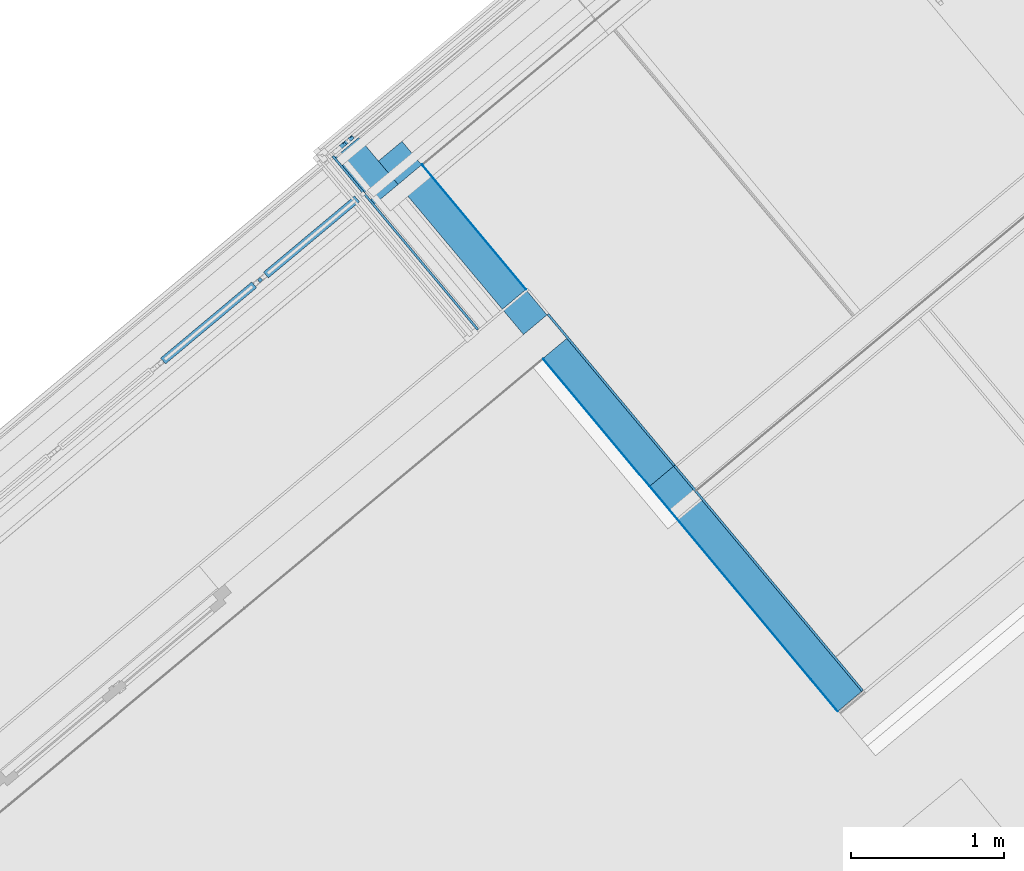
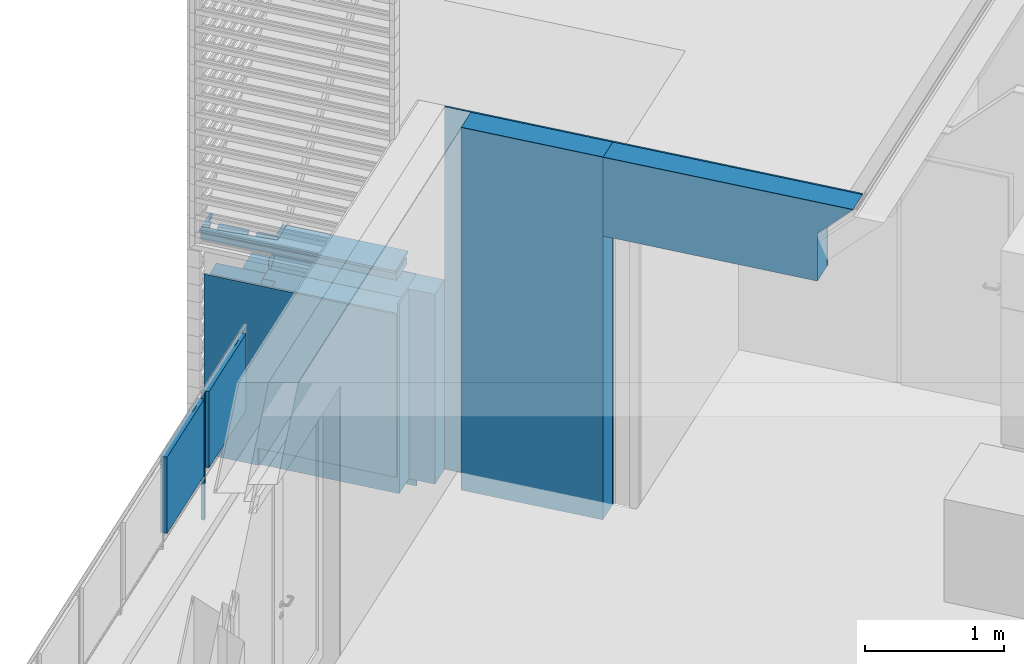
# One storey, part 20 of 50: 15 building element parts, 5 elements without a shape of their own.
"""IFC4 building model written with IfcOpenShell, lengths in metres."""

from ifc_helpers import new_model, entity, si_unit, converted_unit, derived_unit, direction, frame, origin_with_axes, place, context, subcontext, project, spatial, polygons, material, type_object, element, aggregate, save


model = new_model("IFC4")

# Units and contexts
model_context = context("Model", 3, precision=1e-05, world=origin_with_axes(), true_north=direction((0.0, 1.0)))
body_context = subcontext(model_context, "Body", "Model", "MODEL_VIEW")
ifc_project = project(units=[si_unit("LENGTHUNIT", "METRE"), si_unit("AREAUNIT", "SQUARE_METRE"), si_unit("VOLUMEUNIT", "CUBIC_METRE"), converted_unit("PLANEANGLEUNIT", "DEGREE", entity("IfcPlaneAngleMeasure", 0.0174532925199), si_unit("PLANEANGLEUNIT", "RADIAN"), dimensions=[0, 0, 0, 0, 0, 0, 0]), converted_unit("TIMEUNIT", "Year", entity("IfcTimeMeasure", 31556926.0), si_unit("TIMEUNIT", "SECOND"), dimensions=[0, 0, 1, 0, 0, 0, 0]), si_unit("MASSUNIT", "GRAM", prefix="KILO"), si_unit("THERMODYNAMICTEMPERATUREUNIT", "DEGREE_CELSIUS"), si_unit("LUMINOUSINTENSITYUNIT", "LUMEN"), si_unit("ENERGYUNIT", "JOULE", prefix="MEGA"), derived_unit("THERMALCONDUCTANCEUNIT", [(si_unit("POWERUNIT", "WATT"), 1), (si_unit("LENGTHUNIT", "METRE"), -1), (si_unit("THERMODYNAMICTEMPERATUREUNIT", "KELVIN"), -1)]), derived_unit("SPECIFICHEATCAPACITYUNIT", [(si_unit("ENERGYUNIT", "JOULE"), 1), (si_unit("MASSUNIT", "GRAM", prefix="KILO"), -1), (si_unit("THERMODYNAMICTEMPERATUREUNIT", "KELVIN"), -1)]), derived_unit("MASSDENSITYUNIT", [(si_unit("MASSUNIT", "GRAM", prefix="KILO"), 1), (si_unit("VOLUMEUNIT", "CUBIC_METRE"), -1)])], contexts=[model_context])

# Site, building, storey, space
site_placement = place(None, frame((-0.00153261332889, -0.00661245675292, 0.0), z_axis=(0.0, 0.0, 1.0), x_axis=(1.0, 0.0, 0.0)))
site = spatial("IfcSite", under=ifc_project, at=site_placement, Name="Gelände", CompositionType="ELEMENT")
building_placement = place(site_placement, origin_with_axes())
building = spatial("IfcBuilding", under=site, at=building_placement, Name="Gebäude", CompositionType="ELEMENT")
storey_placement = place(building_placement, frame((0.0, 0.0, 8.66), z_axis=(0.0, 0.0, 1.0), x_axis=(1.0, 0.0, 0.0)))
storey = spatial("IfcBuildingStorey", under=building, at=storey_placement, Name="DG2", CompositionType="ELEMENT", Elevation=8.66)
space_1_placement = place(storey_placement, frame((0.280300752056, 22.6307267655, 0.22), z_axis=(0.0, 0.0, 1.0), x_axis=(-0.641244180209, 0.767336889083, 0.0)))
space_1 = spatial("IfcSpace", under=storey, at=space_1_placement, CompositionType="ELEMENT", PredefinedType="NOTDEFINED")

# Wall, building element parts
wall_type_1 = type_object("IfcWallType", Name="AW DG 220", PredefinedType="NOTDEFINED")
wall_1_placement = place(space_1_placement, frame((1.50098786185, 3.42421823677, -0.22), z_axis=(0.0, 0.0, 1.0), x_axis=(-0.99999999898, 4.51729857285e-05, 0.0)))
wall_1 = element("IfcWall", 1, at=wall_1_placement, inside=space_1, type_object=wall_type_1, Name="Wand-003", PredefinedType="NOTDEFINED")
ifc_material_1 = material(Name="Zementputz")
building_element_part_1_placement = place(wall_1_placement, origin_with_axes())
building_element_part_1 = element("IfcBuildingElementPart", 2, at=building_element_part_1_placement, material=ifc_material_1, Name="Zementputz", PredefinedType="NOTDEFINED", context=body_context, shape_type="Tessellation", body=[
    polygons([(1.50106645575, 0.205, 3.18), (1.50106645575, 0.22, 3.18), (0.214999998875, 0.22, 3.18), (0.214999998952, 0.205, 3.18), (1.50106645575, 0.205, 0.0), (1.50106645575, 0.22, 0.0), (0.214999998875, 0.22, 0.0), (0.214999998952, 0.205, 0.0)], [[[1, 2, 3, 4]], [[1, 5, 6, 2]], [[2, 6, 7, 3]], [[4, 3, 7, 8]], [[5, 1, 4, 8]], [[6, 5, 8, 7]]], closed=True),
])
ifc_material_2 = material(Name="Stahlbeton Wand")
building_element_part_2_placement = place(wall_1_placement, origin_with_axes())
building_element_part_2 = element("IfcBuildingElementPart", 3, at=building_element_part_2_placement, material=ifc_material_2, Name="Stahlbeton Wand", PredefinedType="NOTDEFINED", context=body_context, shape_type="Tessellation", body=[
    polygons([(1.50106645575, 0.005, 3.18), (1.50106645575, 0.205, 3.18), (0.414999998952, 0.205, 3.18), (0.414999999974, 0.005, 3.18), (1.50106645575, 0.005, 0.0), (1.50106645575, 0.205, 0.0), (0.414999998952, 0.205, 0.0), (0.414999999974, 0.005, 0.0)], [[[1, 2, 3, 4]], [[1, 5, 6, 2]], [[2, 6, 7, 3]], [[4, 3, 7, 8]], [[5, 1, 4, 8]], [[6, 5, 8, 7]]], closed=True),
])
building_element_part_3_placement = place(wall_1_placement, origin_with_axes())
building_element_part_3 = element("IfcBuildingElementPart", 4, at=building_element_part_3_placement, material=ifc_material_1, Name="Zementputz", PredefinedType="NOTDEFINED", context=body_context, shape_type="Tessellation", body=[
    polygons([(1.50106645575, 0.0, 3.18), (1.50106645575, 0.005, 3.18), (0.419999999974, 0.005, 3.18), (0.42, 0.0, 3.18), (1.50106645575, 0.0, 0.0), (1.50106645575, 0.005, 0.0), (0.419999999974, 0.005, 0.0), (0.42, 0.0, 0.0)], [[[1, 2, 3, 4]], [[1, 5, 6, 2]], [[2, 6, 7, 3]], [[4, 3, 7, 8]], [[5, 1, 4, 8]], [[6, 5, 8, 7]]], closed=True),
])
aggregate(wall_1, [building_element_part_1, building_element_part_2, building_element_part_3])

wall_type_2 = type_object("IfcWallType", Name="AW EG 420", PredefinedType="NOTDEFINED")
wall_2_placement = place(space_1_placement, frame((2.97553500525, 3.63415164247, -0.42), z_axis=(0.0, 0.0, 1.0), x_axis=(-0.99999999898, 4.51678759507e-05, 0.0)))
wall_2 = element("IfcWall", 5, at=wall_2_placement, inside=space_1, type_object=wall_type_2, Name="Wand-002", PredefinedType="NOTDEFINED")
building_element_part_4_placement = place(wall_2_placement, origin_with_axes())
building_element_part_4 = element("IfcBuildingElementPart", 6, at=building_element_part_4_placement, material=ifc_material_1, Name="Zementputz", PredefinedType="NOTDEFINED", context=body_context, shape_type="Tessellation", body=[
    polygons([(0.415356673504, 0.42, 1.86399832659), (0.415356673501, 0.42, 1.86303786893), (1.47453765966, 0.42, 1.86303786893), (1.47453765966, 0.42, 0.2), (1.47453765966, 0.42, 0.0), (0.419999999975, 0.42, 0.0), (0.419999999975, 0.42, 0.2), (0.414999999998, 0.42, 0.2), (0.414999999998, 0.42, 1.86399832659), (0.415356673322, 0.415, 1.86399832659), (0.415356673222, 0.415000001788, 1.85953683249), (1.47453766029, 0.415000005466, 1.85953683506), (1.47453765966, 0.415000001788, 0.0), (0.419999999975, 0.415000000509, 0.0), (0.419999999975, 0.415000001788, 0.2), (0.414999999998, 0.415000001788, 0.2), (0.414999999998, 0.415, 1.86399832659)], [[[1, 2, 3, 4, 5, 6, 7, 8, 9]], [[2, 1, 10, 11]], [[12, 3, 2, 11]], [[3, 12, 13, 5, 4]], [[6, 5, 13, 14]], [[6, 14, 15, 7]], [[8, 7, 15, 16]], [[9, 8, 16, 17]], [[10, 1, 9, 17]], [[11, 10, 17, 16, 15, 14, 13, 12]]], closed=True),
])
building_element_part_5_placement = place(wall_2_placement, origin_with_axes())
building_element_part_5 = element("IfcBuildingElementPart", 7, at=building_element_part_5_placement, material=ifc_material_2, Name="Stahlbeton Wand", PredefinedType="NOTDEFINED", context=body_context, shape_type="Tessellation", body=[
    polygons([(0.415356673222, 0.415000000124, 1.85953683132), (1.47453766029, 0.415000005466, 1.85953683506), (1.47453766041, 0.415000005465, 1.86399832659), (1.68953765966, 0.415, 1.86399832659), (1.68953765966, 0.415000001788, 0.2), (0.419999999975, 0.414999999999, 0.2), (0.214999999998, 0.415000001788, 0.2), (0.215000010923, 0.415000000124, 1.7484529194), (0.415000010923, 0.414999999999, 1.74845291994), (0.415000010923, 0.415, 1.86399832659), (0.415356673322, 0.415, 1.86399832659), (0.415356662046, 0.215000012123, 1.71949533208), (1.47453764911, 0.214999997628, 1.71949532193), (1.47453765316, 0.214999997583, 1.86399832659), (1.68953765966, 0.215, 1.86399832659), (1.68953765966, 0.214999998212, 0.2), (1.47453765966, 0.214999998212, 0.2), (0.214999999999, 0.214999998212, 0.2), (0.214999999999, 0.214999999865, 1.73842049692), (0.414999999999, 0.214999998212, 1.73842049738), (0.414999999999, 0.215, 1.86399832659), (0.415356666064, 0.215000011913, 1.86399832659)], [[[1, 2, 3, 4, 5, 6, 7, 8, 9, 10, 11]], [[2, 1, 12, 13]], [[14, 3, 2, 13]], [[3, 14, 15, 4]], [[4, 15, 16, 5]], [[5, 16, 17, 18, 7, 6]], [[18, 19, 8, 7]], [[20, 9, 8, 19]], [[20, 21, 10, 9]], [[22, 11, 10, 21]], [[1, 11, 22, 12]], [[12, 22, 21, 20, 19, 18, 17, 16, 15, 14, 13]]], closed=True),
])
ifc_material_3 = material(Name="EPS 1")
building_element_part_6_placement = place(wall_2_placement, origin_with_axes())
building_element_part_6 = element("IfcBuildingElementPart", 8, at=building_element_part_6_placement, material=ifc_material_3, Name="EPS 1", PredefinedType="NOTDEFINED", context=body_context, shape_type="Tessellation", body=[
    polygons([(0.41499999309, 0.0885140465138, 1.77845109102), (0.51499999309, 0.0885140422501, 1.77845109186), (0.514999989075, 0.0149999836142, 1.77845109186), (1.47453765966, 0.0150000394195, 1.77845109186), (1.47453765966, 0.21499999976, 1.77845109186), (0.414999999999, 0.21499999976, 1.77845109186), (0.514999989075, 0.0149999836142, 1.72697599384), (0.414999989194, 0.0171722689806, 1.7284970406), (0.414999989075, 0.0149999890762, 1.72697599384), (0.414999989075, 0.0149999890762, 1.72838807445), (0.0150000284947, 0.0150000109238, 1.72838807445), (0.0149999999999, 0.0150000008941, 0.2), (1.47453765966, 0.0150000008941, 0.2), (1.48953765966, 0.0150000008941, 0.2), (1.48953765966, 0.015, 1.86399832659), (1.47453765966, 0.0150000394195, 1.86399832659), (1.47453765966, 0.21499999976, 1.86399832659), (0.014999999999, 0.214999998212, 0.2), (0.0150000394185, 0.214999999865, 1.73842049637), (0.414999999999, 0.214999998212, 1.73842049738), (1.48953765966, 0.215, 1.86399832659), (1.48953765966, 0.214999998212, 0.2), (1.47453765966, 0.214999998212, 0.2)], [[[1, 2, 3, 4, 5, 6]], [[7, 2, 1, 8, 9]], [[7, 3, 2]], [[7, 9, 10, 11, 12, 13, 14, 15, 16, 4, 3]], [[4, 16, 17, 5]], [[18, 19, 20, 6, 5, 17, 21, 22, 23]], [[20, 8, 1, 6]], [[9, 8, 10]], [[11, 10, 8, 20, 19]], [[12, 11, 19, 18]], [[12, 18, 23, 22, 14, 13]], [[21, 15, 14, 22]], [[21, 17, 16, 15]]], closed=True),
])
building_element_part_7_placement = place(wall_2_placement, origin_with_axes())
building_element_part_7 = element("IfcBuildingElementPart", 9, at=building_element_part_7_placement, material=ifc_material_1, Name="Zementputz", PredefinedType="NOTDEFINED", context=body_context, shape_type="Tessellation", body=[
    polygons([(0.0, 0.015, 0.2), (1.04214272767e-08, 0.0150000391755, 1.77845109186), (1.47453765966, 0.0150000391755, 1.77845109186), (1.47453765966, 0.0149999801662, 0.35), (0.414999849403, 0.0149999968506, 0.35), (0.414999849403, 0.0149999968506, 0.2), (0.0, 0.0, 0.2), (9.60213952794e-09, 2.13462651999e-08, 1.77845109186), (1.47453765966, 2.13462580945e-08, 1.77845109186), (1.47453765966, 0.0, 0.35), (0.414999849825, 0.0, 0.35), (0.414999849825, 0.0, 0.2)], [[[1, 2, 3, 4, 5, 6]], [[7, 8, 2, 1]], [[8, 9, 3, 2]], [[4, 3, 9, 10]], [[10, 11, 5, 4]], [[5, 11, 12, 6]], [[7, 1, 6, 12]], [[10, 9, 8, 7, 12, 11]]], closed=True),
])
aggregate(wall_2, [building_element_part_4, building_element_part_5, building_element_part_6, building_element_part_7])

# Space
space_2_placement = place(storey_placement, frame((-3.1056460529, 21.2099336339, 0.22), z_axis=(0.0, 0.0, 1.0), x_axis=(-0.767365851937, -0.641209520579, 0.0)))
space_2 = spatial("IfcSpace", under=storey, at=space_2_placement, CompositionType="ELEMENT", PredefinedType="NOTDEFINED")

# Wall, building element parts
wall_3_placement = place(space_2_placement, frame((-0.0849999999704, 1.08106645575, 2.27006881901), z_axis=(0.0, 0.0, 1.0), x_axis=(5.11182651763e-09, 1.0, 0.0)))
wall_3 = element("IfcWall", 10, at=wall_3_placement, inside=space_2, type_object=wall_type_1, Name="Wand-003", PredefinedType="NOTDEFINED")
building_element_part_8_placement = place(wall_3_placement, origin_with_axes())
building_element_part_8 = element("IfcBuildingElementPart", 11, at=building_element_part_8_placement, material=ifc_material_1, Name="Zementputz", PredefinedType="NOTDEFINED", context=body_context, shape_type="Tessellation", body=[
    polygons([(1.91245812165, 0.20500000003, 0.689931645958), (1.91245859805, 0.219999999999, 0.689931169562), (0.0, 0.22, 0.689931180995), (0.0, 0.205, 0.689931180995), (1.64102248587, 0.22, 0.418495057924), (1.64102167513, 0.205, 0.41849519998), (1.64102248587, 0.22, 0.0), (0.0, 0.22, 0.0), (0.0, 0.205, 0.0), (1.64102167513, 0.205, 0.0)], [[[1, 2, 3, 4]], [[5, 2, 1, 6]], [[5, 7, 8, 3, 2]], [[3, 8, 9, 4]], [[6, 1, 4, 9, 10]], [[7, 5, 6, 10]], [[7, 10, 9, 8]]], closed=True),
])
building_element_part_9_placement = place(wall_3_placement, origin_with_axes())
building_element_part_9 = element("IfcBuildingElementPart", 12, at=building_element_part_9_placement, material=ifc_material_2, Name="Stahlbeton Wand", PredefinedType="NOTDEFINED", context=body_context, shape_type="Tessellation", body=[
    polygons([(1.9124517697, 0.00500000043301, 0.689937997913), (1.91245812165, 0.20500000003, 0.689931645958), (0.0, 0.205, 0.689931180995), (0.0, 0.005, 0.689931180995), (1.64102167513, 0.205, 0.41849519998), (1.64101086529, 0.005, 0.41849709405), (1.64102167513, 0.205, 0.0), (0.0, 0.205, 0.0), (0.0, 0.005, 0.0), (1.64101086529, 0.005, 0.0)], [[[1, 2, 3, 4]], [[5, 2, 1, 6]], [[5, 7, 8, 3, 2]], [[3, 8, 9, 4]], [[6, 1, 4, 9, 10]], [[7, 5, 6, 10]], [[7, 10, 9, 8]]], closed=True),
])
building_element_part_10_placement = place(wall_3_placement, origin_with_axes())
building_element_part_10 = element("IfcBuildingElementPart", 13, at=building_element_part_10_placement, material=ifc_material_1, Name="Zementputz", PredefinedType="NOTDEFINED", context=body_context, shape_type="Tessellation", body=[
    polygons([(1.9124516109, 4.43092673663e-10, 0.689938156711), (1.9124517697, 0.00500000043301, 0.689937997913), (0.0, 0.005, 0.689931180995), (0.0, 0.0, 0.689931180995), (1.64101086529, 0.005, 0.41849709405), (1.64101059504, 0.0, 0.418497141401), (1.64101086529, 0.005, 0.0), (0.0, 0.005, 0.0), (0.0, 0.0, 0.0), (1.64101059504, 0.0, 0.0)], [[[1, 2, 3, 4]], [[5, 2, 1, 6]], [[5, 7, 8, 3, 2]], [[3, 8, 9, 4]], [[6, 1, 4, 9, 10]], [[7, 5, 6, 10]], [[7, 10, 9, 8]]], closed=True),
])
aggregate(wall_3, [building_element_part_8, building_element_part_9, building_element_part_10])

# Space
space_3_placement = place(storey_placement, frame((-4.06558748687, 22.1637970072, 0.22), z_axis=(0.0, 0.0, 1.0), x_axis=(-0.767365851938, -0.641209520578, 0.0)))
space_3 = spatial("IfcSpace", under=storey, at=space_3_placement, CompositionType="ELEMENT", PredefinedType="NOTDEFINED")

# Wall, building element parts
wall_type_3 = type_object("IfcWallType", Name="Bauteil - Attika Abschluss wand 264 x 407", PredefinedType="NOTDEFINED")
wall_4_placement = place(space_3_placement, frame((-0.215, 0.927485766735, 1.15845109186), z_axis=(0.0, 0.0, 1.0), x_axis=(-1.0, 0.0, 0.0)))
wall_4 = element("IfcWall", 14, at=wall_4_placement, inside=space_3, type_object=wall_type_3, Name="Träger-001", PredefinedType="NOTDEFINED")
ifc_material_4 = material(Name="Holzwerkstoff")
building_element_part_11_placement = place(wall_4_placement, origin_with_axes())
building_element_part_11 = element("IfcBuildingElementPart", 15, at=building_element_part_11_placement, material=ifc_material_4, Name="Holzwerkstoff", PredefinedType="NOTDEFINED", context=body_context, shape_type="Tessellation", body=[
    polygons([(-0.0262211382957, 1.50008063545, 0.604759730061), (-0.0262211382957, 1.47453763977, 0.604759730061), (-0.0568048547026, 1.47453764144, 0.583344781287), (-0.0568048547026, 1.50008063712, 0.583344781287), (0.00663529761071, 0.928839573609, 0.605738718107), (-0.00759668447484, 0.936655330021, 0.605314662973), (-0.00593906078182, 0.937659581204, 0.605364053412), (0.0108436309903, 0.928443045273, 0.605864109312), (0.00910048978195, 0.927485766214, 0.6058121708), (-0.138030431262, 0.92748577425, 0.601428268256), (-0.17224700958, 0.927485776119, 0.600408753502), (-0.199999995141, 1.34849929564, 0.599581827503), (-0.199999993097, 1.38591841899, 0.599581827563), (-0.199999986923, 1.49895687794, 0.599581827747), (-0.169715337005, 1.49953765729, 0.60048418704), (-0.166534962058, 1.44952257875, 0.600578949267), (-0.118997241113, 1.4496626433, 0.601995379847), (-0.118997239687, 1.47453764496, 0.601995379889), (-0.0429182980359, 1.49091106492, 0.604262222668), (-0.0447469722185, 1.4918213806, 0.604207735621), (-0.0304294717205, 1.49968410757, 0.604634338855), (-0.199999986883, 1.49969020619, 0.599581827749), (-0.199999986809, 1.5010379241, 0.599581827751), (-0.241694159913, 1.5010379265, 0.598339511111), (-0.241694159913, 0.0, 0.598339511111), (0.0197570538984, 0.0, 0.606129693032), (0.0197570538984, 0.959537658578, 0.606129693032), (-0.118997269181, 0.959537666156, 0.601995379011), (-0.118997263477, 1.05953766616, 0.601995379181), (-0.118997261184, 1.09953766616, 0.601995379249), (-0.144272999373, 1.09942743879, 0.601242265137), (-0.133469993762, 0.929537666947, 0.60156415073), (-0.169871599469, 0.928839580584, 0.600479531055), (-0.137531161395, 0.928839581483, 0.601443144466), (-0.0789260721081, 1.47453764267, 0.582657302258), (-0.149758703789, 1.47453764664, 0.580455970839), (-0.130124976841, 1.47453764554, 0.581066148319), (-0.0789260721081, 1.49968475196, 0.582657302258), (-0.0610212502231, 1.49968410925, 0.583213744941), (-0.0753661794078, 1.49182138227, 0.582767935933), (-0.0735340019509, 1.49091106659, 0.582824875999), (-0.0381447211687, 0.93665533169, 0.583924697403), (-0.0238854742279, 0.928839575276, 0.584367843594), (-0.0364839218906, 0.937659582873, 0.58397631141), (-0.0196690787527, 0.928443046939, 0.584498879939), (-0.0214155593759, 0.927485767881, 0.584444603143), (-0.168828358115, 0.927485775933, 0.579863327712), (-0.0789260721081, 0.927485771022, 0.582657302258), (-0.130124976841, 0.927485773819, 0.581066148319), (-0.200000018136, 0.927485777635, 0.580975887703), (-0.190021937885, 0.92748577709, 0.579204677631), (-0.200000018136, 0.927485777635, 0.578894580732), (-0.200000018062, 0.92883958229, 0.578894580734), (-0.200000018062, 0.92883958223, 0.579383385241), (-0.200000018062, 0.928853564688, 0.578894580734), (-0.199999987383, 1.49052847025, 0.578894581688), (-0.199999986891, 1.49953765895, 0.579278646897), (-0.197387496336, 1.44952258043, 0.578975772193), (-0.149758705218, 1.44966264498, 0.580455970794), (-0.190021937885, 1.44954424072, 0.579204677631), (-0.199999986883, 1.49968909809, 0.578894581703), (-0.130124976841, 1.49968658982, 0.581066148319), (-0.190021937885, 1.49968873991, 0.579204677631), (-0.199999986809, 1.5010379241, 0.578894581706), (-0.241050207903, 1.5010379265, 0.577618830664), (-0.241050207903, 0.0, 0.577618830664), (-0.0789260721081, 0.0, 0.582657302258), (-0.0192371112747, 0.0, 0.584512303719), (0.0203906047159, 0.0, 0.585743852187), (-0.190021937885, 0.0, 0.579204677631), (-0.130124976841, 0.0, 0.581066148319), (0.0203906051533, 0.959537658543, 0.585743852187), (-0.0192371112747, 0.959537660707, 0.584512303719), (-0.0789260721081, 0.959537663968, 0.582657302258), (-0.130124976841, 0.959537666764, 0.581066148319), (-0.14975873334, 0.959537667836, 0.58045596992), (-0.149758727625, 1.05953766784, 0.580455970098), (-0.149758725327, 1.09953766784, 0.580455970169), (-0.175082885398, 1.09942744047, 0.579668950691), (-0.164259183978, 0.929537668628, 0.580005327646), (-0.190021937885, 0.929044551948, 0.579204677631), (-0.168328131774, 0.928839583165, 0.579878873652), (-0.190021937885, 0.92883958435, 0.579204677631), (-0.130124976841, 0.928839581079, 0.581066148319), (-0.0789260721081, 0.928839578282, 0.582657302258)], [[[1, 2, 3, 4]], [[5, 6, 7, 8, 9, 10, 11, 12, 13, 14, 15, 16, 17, 18, 2, 1, 19, 20, 21, 22, 23, 24, 25, 26, 27, 28, 29, 30, 31, 32, 33, 34]], [[35, 3, 2, 18, 36, 37]], [[4, 3, 35, 38, 39, 40, 41]], [[41, 19, 1, 4]], [[42, 6, 5, 43]], [[44, 7, 6, 42]], [[45, 8, 7, 44]], [[46, 9, 8, 45]], [[47, 10, 9, 46, 48, 49]], [[50, 11, 10, 47, 51, 52]], [[50, 12, 11]], [[50, 52, 53, 54, 13, 12]], [[54, 55, 56, 57, 14, 13]], [[57, 15, 14]], [[58, 16, 15, 57, 56]], [[59, 17, 16, 58, 60]], [[36, 18, 17, 59]], [[40, 20, 19, 41]], [[39, 21, 20, 40]], [[61, 22, 21, 39, 38, 62, 63]], [[64, 23, 22, 61]], [[24, 23, 64, 65]], [[65, 66, 25, 24]], [[67, 68, 69, 26, 25, 66, 70, 71]], [[69, 72, 27, 26]], [[28, 27, 72, 73, 74, 75, 76]], [[77, 29, 28, 76]], [[78, 30, 29, 77]], [[79, 31, 30, 78]], [[80, 32, 31, 79]], [[54, 33, 32, 80, 81, 55]], [[82, 34, 33, 54, 53, 83]], [[43, 5, 34, 82, 84, 85]], [[36, 59, 60, 63, 62, 37]], [[38, 35, 37, 62]], [[85, 74, 73, 68, 67, 48, 46, 45, 44, 42, 43]], [[71, 49, 48, 67]], [[51, 47, 49, 71, 70]], [[56, 55, 81, 83, 53, 52, 51, 70, 66, 65, 64, 61, 63, 60, 58]], [[68, 73, 72, 69]], [[84, 75, 74, 85]], [[77, 76, 75, 84, 82, 83, 81, 80, 79, 78]]], closed=True),
    polygons([(-0.190021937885, 1.33391212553, 0.579204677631), (-0.190021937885, 1.38966264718, 0.579204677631), (-0.149758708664, 1.38966264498, 0.580455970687), (-0.149758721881, 1.15953766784, 0.580455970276), (-0.178912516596, 1.15953766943, 0.579549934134), (-0.193573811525, 1.38966264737, 0.579094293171), (-0.162728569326, 1.38966264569, 0.600692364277), (-0.118997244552, 1.3896626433, 0.601995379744), (-0.118997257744, 1.15953766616, 0.601995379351), (-0.148095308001, 1.15953766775, 0.601128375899)], [[[1, 2, 3, 4, 5]], [[1, 6, 2]], [[6, 7, 8, 3, 2]], [[3, 8, 9, 4]], [[4, 9, 10, 5]], [[5, 10, 7, 6, 1]], [[8, 7, 10, 9]]], closed=True),
])
ifc_material_5 = material(Name="Brettschichtholz")
building_element_part_12_placement = place(wall_4_placement, origin_with_axes())
building_element_part_12 = element("IfcBuildingElementPart", 16, at=building_element_part_12_placement, material=ifc_material_5, Name="Brettschichtholz", PredefinedType="NOTDEFINED", context=body_context, shape_type="Tessellation", body=[
    polygons([(-0.0901446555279, 1.50008063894, 0.560000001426), (-0.0901446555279, 1.47453764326, 0.560000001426), (-0.175833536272, 1.47453764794, 0.500000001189), (-0.175833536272, 1.50008064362, 0.500000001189), (-0.13012497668, 1.49968546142, 0.560000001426), (-0.13012497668, 1.4745376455, 0.560000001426), (-0.106131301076, 1.49091106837, 0.560000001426), (-0.107882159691, 1.49182138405, 0.560000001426), (-0.0941739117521, 1.49968411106, 0.560000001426), (-0.199999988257, 1.47453764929, 0.500000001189), (-0.178972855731, 1.47453764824, 0.560000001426), (-0.199999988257, 1.47453764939, 0.545276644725), (-0.200000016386, 0.959537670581, 0.500000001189), (-0.140345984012, 0.959537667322, 0.500000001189), (2.37772646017e-09, 0.959537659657, 0.500000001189), (2.37772646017e-09, 0.0, 0.500000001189), (-0.214999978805, 0.0, 0.500000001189), (-0.214999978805, 1.5010379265, 0.500000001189), (-0.199999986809, 1.5010379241, 0.499999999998), (-0.199999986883, 1.49968487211, 0.500000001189), (-0.179862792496, 1.49968411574, 0.500000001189), (-0.193571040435, 1.49182138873, 0.500000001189), (-0.19182018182, 1.49091107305, 0.500000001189), (-0.200000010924, 1.05953767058, 0.500000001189), (-0.200000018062, 0.928839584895, 0.500000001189), (-0.200000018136, 0.927485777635, 0.500000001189), (-0.142014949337, 0.927485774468, 0.500000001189), (-0.140345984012, 0.928443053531, 0.500000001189), (-0.156414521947, 0.937659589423, 0.500000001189), (-0.158001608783, 0.936655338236, 0.500000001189), (-0.144375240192, 0.928839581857, 0.500000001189), (-0.178972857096, 1.44966264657, 0.560000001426), (-0.190124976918, 1.49968771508, 0.560000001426), (-0.190124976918, 1.44962832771, 0.560000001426), (-0.199999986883, 1.499688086, 0.560000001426), (-0.199999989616, 1.44966264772, 0.54527664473), (-0.200000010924, 1.05953767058, 0.545276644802), (-0.199999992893, 1.38966264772, 0.545276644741), (-0.200000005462, 1.15953767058, 0.545276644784), (-0.200000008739, 1.09953767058, 0.545276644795), (-0.13012497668, 0.959537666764, 0.560000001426), (-0.0791484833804, 0.95953766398, 0.560000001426), (-0.0546571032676, 0.959537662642, 0.560000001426), (-0.200000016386, 0.959537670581, 0.545276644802), (-0.178972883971, 0.959537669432, 0.560000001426), (-0.0191484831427, 0.959537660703, 0.560000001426), (2.37772646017e-09, 0.959537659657, 0.560000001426), (2.37772646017e-09, 0.0, 0.560000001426), (-0.0191484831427, 0.0, 0.560000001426), (-0.0791484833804, 0.0, 0.560000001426), (-0.13012497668, 0.0, 0.560000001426), (-0.190124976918, 0.0, 0.560000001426), (-0.214999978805, 0.0, 0.560000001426), (-0.214999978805, 1.5010379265, 0.560000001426), (-0.199999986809, 1.5010379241, 0.560000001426), (-0.200000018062, 0.928839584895, 0.557701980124), (-0.200000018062, 0.928839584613, 0.560000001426), (-0.200000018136, 0.927485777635, 0.560000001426), (-0.200000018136, 0.927485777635, 0.558036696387), (-0.13012497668, 0.927485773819, 0.560000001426), (-0.0791484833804, 0.927485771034, 0.560000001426), (-0.0563260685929, 0.927485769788, 0.560000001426), (-0.197196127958, 0.927485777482, 0.560000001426), (-0.190124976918, 0.927485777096, 0.560000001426), (-0.0546571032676, 0.92844304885, 0.560000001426), (-0.0707256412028, 0.937659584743, 0.560000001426), (-0.0723127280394, 0.936655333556, 0.560000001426), (-0.0586863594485, 0.928839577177, 0.560000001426), (-0.0791484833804, 0.928839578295, 0.560000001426), (-0.13012497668, 0.928839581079, 0.560000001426), (-0.190124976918, 0.928839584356, 0.560000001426), (-0.19671810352, 0.928839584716, 0.560000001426), (-0.199999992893, 1.38966264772, 0.560000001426), (-0.199999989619, 1.44959793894, 0.560000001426), (-0.190124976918, 1.09948687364, 0.560000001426), (-0.200000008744, 1.09944189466, 0.560000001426), (-0.200000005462, 1.15953767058, 0.560000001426), (-0.190124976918, 1.15953767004, 0.560000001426), (-0.190124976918, 1.38966264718, 0.560000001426), (-0.192829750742, 0.929537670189, 0.560000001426), (-0.200000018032, 0.929394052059, 0.560000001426), (-0.200000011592, 1.04730988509, 0.560000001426), (-0.17897286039, 1.38966264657, 0.560000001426), (-0.17897287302, 1.15953766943, 0.560000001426), (-0.178972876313, 1.09953766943, 0.560000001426), (-0.178972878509, 1.05953766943, 0.560000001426), (-0.200000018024, 0.929537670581, 0.554979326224)], [[[1, 2, 3, 4]], [[5, 6, 2, 1, 7, 8, 9]], [[10, 3, 2, 6, 11, 12]], [[13, 14, 15, 16, 17, 18, 19, 20, 21, 22, 23, 4, 3, 10, 24], [25, 26, 27, 28, 29, 30, 31]], [[23, 7, 1, 4]], [[32, 11, 6, 5, 33, 34]], [[22, 8, 7, 23]], [[21, 9, 8, 22]], [[33, 5, 9, 21, 20, 35]], [[12, 11, 32, 36]], [[37, 24, 10, 12, 36, 38, 39, 40]], [[41, 42, 43, 14, 13, 44, 45]], [[43, 46, 47, 15, 14]], [[16, 15, 47, 48]], [[49, 50, 51, 52, 53, 17, 16, 48]], [[18, 17, 53, 54]], [[54, 55, 19, 18]], [[19, 55, 35, 20]], [[44, 13, 24, 37]], [[56, 57, 58, 59, 26, 25]], [[60, 61, 62, 27, 26, 59, 63, 64]], [[27, 62, 65, 28]], [[28, 65, 66, 29]], [[29, 66, 67, 30]], [[30, 67, 68, 31]], [[31, 68, 69, 70, 71, 72, 56, 25]], [[73, 74, 34, 33, 35, 55, 54, 53, 52, 64, 63, 58, 57, 72, 71, 75, 76, 77, 78, 79], [80, 81, 82]], [[36, 32, 34, 74]], [[36, 74, 73, 38]], [[38, 83, 84, 39]], [[39, 77, 76, 40]], [[40, 85, 86, 37]], [[69, 42, 41, 70]], [[46, 43, 42, 69, 68, 67, 66, 65, 62, 61, 50, 49]], [[37, 86, 45, 44]], [[86, 85, 75, 71, 70, 41, 45]], [[48, 47, 46, 49]], [[50, 61, 60, 51]], [[51, 60, 64, 52]], [[56, 72, 57]], [[59, 58, 63]], [[76, 75, 85, 40]], [[39, 84, 78, 77]], [[84, 83, 79, 78]], [[73, 79, 83, 38]], [[87, 81, 80]], [[87, 82, 81]], [[87, 80, 82]]], closed=True),
])
aggregate(wall_4, [building_element_part_11, building_element_part_12])

# Railing, building element parts
railing_type = type_object("IfcRailingType", Name="Geländerart", PredefinedType="NOTDEFINED")
railing_placement = place(space_3_placement, frame((5.14520574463, 0.942485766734, 0.16), z_axis=(0.0, 0.0, 1.0), x_axis=(-0.767365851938, 0.641209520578, 0.0)))
railing = element("IfcRailing", 17, at=railing_placement, inside=space_3, type_object=railing_type, Name="Geländer - 001", PredefinedType="NOTDEFINED")
ifc_material_6 = material(Name="Aluminium")
building_element_part_13_placement = place(railing_placement, origin_with_axes())
building_element_part_13 = element("IfcBuildingElementPart", 18, at=building_element_part_13_placement, material=ifc_material_6, Name="Aluminium", PredefinedType="NOTDEFINED", context=body_context, shape_type="Tessellation", body=[
    polygons([(1.96696832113, 3.17746297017, 0.12), (2.0206839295, 3.22234763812, 0.12), (2.0206839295, 3.22234763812, 0.095), (1.96696832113, 3.17746297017, 0.095), (1.97017436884, 3.173626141, 0.12), (2.02388997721, 3.21851080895, 0.12), (2.02388997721, 3.21851080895, 0.095), (1.97017436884, 3.173626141, 0.095)], [[[1, 2, 3, 4]], [[5, 6, 2, 1]], [[2, 6, 7, 3]], [[4, 3, 7, 8]], [[1, 4, 8, 5]], [[8, 7, 6, 5]]], closed=True),
    polygons([(2.4075905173, 3.54564610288, 0.79), (2.35387490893, 3.50076143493, 0.79), (2.35387490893, 3.50076143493, 0.795), (2.4075905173, 3.54564610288, 0.795), (2.41079656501, 3.54180927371, 0.79), (2.35708095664, 3.49692460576, 0.79), (2.35708095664, 3.49692460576, 0.795), (2.41079656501, 3.54180927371, 0.795)], [[[1, 2, 3, 4]], [[5, 6, 2, 1]], [[2, 6, 7, 3]], [[4, 3, 7, 8]], [[1, 4, 8, 5]], [[8, 7, 6, 5]]], closed=True),
    polygons([(1.90786500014, 3.09223945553, 0.12), (1.87580452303, 3.13060774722, 0.12), (2.469899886, 3.62703278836, 0.12), (2.50196036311, 3.58866449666, 0.12), (1.92321231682, 3.10506364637, 0.14), (1.91359417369, 3.11657413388, 0.14), (1.90975734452, 3.11336808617, 0.135), (1.89693315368, 3.12871540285, 0.135), (1.90076998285, 3.13192145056, 0.14), (1.89115183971, 3.14343193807, 0.14), (2.45455256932, 3.61420859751, 0.14), (2.45455256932, 3.61420859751, 0.77), (1.89115183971, 3.14343193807, 0.77), (1.89115183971, 3.14343193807, 0.14), (1.87580452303, 3.13060774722, 0.12), (1.87580452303, 3.13060774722, 0.79), (2.469899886, 3.62703278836, 0.79), (2.50196036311, 3.58866449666, 0.79), (1.90786500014, 3.09223945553, 0.79), (1.90786500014, 3.09223945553, 0.12), (1.92321231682, 3.10506364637, 0.14), (1.92321231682, 3.10506364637, 0.77), (2.48661304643, 3.57584030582, 0.77), (2.48661304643, 3.57584030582, 0.14), (2.47699490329, 3.58735079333, 0.14), (2.47699490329, 3.58735079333, 0.77), (1.91359417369, 3.11657413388, 0.77), (1.91359417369, 3.11657413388, 0.14), (1.90975734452, 3.11336808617, 0.135), (1.90975734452, 3.11336808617, 0.775), (2.48083173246, 3.59055684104, 0.775), (2.48083173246, 3.59055684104, 0.135), (2.46800754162, 3.60590415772, 0.135), (2.46800754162, 3.60590415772, 0.775), (1.89693315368, 3.12871540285, 0.775), (1.89693315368, 3.12871540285, 0.135), (1.90076998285, 3.13192145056, 0.14), (1.90076998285, 3.13192145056, 0.77), (2.46417071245, 3.60269811, 0.77), (2.46417071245, 3.60269811, 0.14)], [[[1, 2, 3, 4]], [[1, 5, 6, 7, 8, 9, 10, 2]], [[2, 10, 11, 12, 13, 14, 15, 16, 17, 3]], [[4, 3, 17, 18]], [[5, 1, 4, 18, 19, 20, 21, 22, 23, 24]], [[6, 5, 24, 25]], [[7, 6, 25, 26, 27, 28, 29, 30, 31, 32]], [[8, 7, 32, 33]], [[9, 8, 33, 34, 35, 36, 37, 38, 39, 40]], [[10, 9, 40, 11]], [[11, 40, 39, 12]], [[12, 39, 38, 13]], [[13, 38, 37, 14]], [[20, 15, 14, 37, 36, 29, 28, 21]], [[19, 16, 15, 20]], [[18, 17, 16, 19]], [[27, 22, 21, 28]], [[26, 23, 22, 27]], [[25, 24, 23, 26]], [[35, 30, 29, 36]], [[34, 31, 30, 35]], [[33, 32, 31, 34]]], closed=True),
])
building_element_part_14_placement = place(railing_placement, origin_with_axes())
building_element_part_14 = element("IfcBuildingElementPart", 19, at=building_element_part_14_placement, material=ifc_material_6, Name="Aluminium", PredefinedType="NOTDEFINED", context=body_context, shape_type="Tessellation", body=[
    polygons([(2.54190560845, 3.63833216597, -0.3), (2.5258753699, 3.65751631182, -0.3), (2.5258753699, 3.65751631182, 0.82), (2.54190560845, 3.63833216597, 0.82), (2.5227214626, 3.62230192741, -0.3), (2.50669122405, 3.64148607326, -0.3), (2.50669122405, 3.64148607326, 0.82), (2.5227214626, 3.62230192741, 0.82)], [[[1, 2, 3, 4]], [[1, 5, 6, 2]], [[2, 6, 7, 3]], [[4, 3, 7, 8]], [[5, 1, 4, 8]], [[6, 5, 8, 7]]], closed=True),
])
building_element_part_15_placement = place(railing_placement, origin_with_axes())
building_element_part_15 = element("IfcBuildingElementPart", 20, at=building_element_part_15_placement, material=ifc_material_6, Name="Aluminium", PredefinedType="NOTDEFINED", context=body_context, shape_type="Tessellation", body=[
    polygons([(2.63780026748, 3.73800896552, 0.12), (2.69151587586, 3.78289363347, 0.12), (2.69151587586, 3.78289363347, 0.095), (2.63780026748, 3.73800896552, 0.095), (2.64100631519, 3.73417213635, 0.12), (2.69472192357, 3.7790568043, 0.12), (2.69472192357, 3.7790568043, 0.095), (2.64100631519, 3.73417213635, 0.095)], [[[1, 2, 3, 4]], [[5, 6, 2, 1]], [[2, 6, 7, 3]], [[4, 3, 7, 8]], [[1, 4, 8, 5]], [[8, 7, 6, 5]]], closed=True),
    polygons([(3.07842246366, 4.10619209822, 0.79), (3.02470685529, 4.06130743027, 0.79), (3.02470685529, 4.06130743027, 0.795), (3.07842246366, 4.10619209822, 0.795), (3.08162851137, 4.10235526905, 0.79), (3.027912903, 4.0574706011, 0.79), (3.027912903, 4.0574706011, 0.795), (3.08162851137, 4.10235526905, 0.795)], [[[1, 2, 3, 4]], [[5, 6, 2, 1]], [[2, 6, 7, 3]], [[4, 3, 7, 8]], [[1, 4, 8, 5]], [[8, 7, 6, 5]]], closed=True),
    polygons([(2.5786969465, 3.65278545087, 0.12), (2.54663646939, 3.69115374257, 0.12), (3.14073183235, 4.1875787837, 0.12), (3.17279230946, 4.149210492, 0.12), (2.59404426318, 3.66560964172, 0.14), (2.58442612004, 3.67712012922, 0.14), (2.58058929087, 3.67391408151, 0.135), (2.56776510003, 3.68926139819, 0.135), (2.5716019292, 3.6924674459, 0.14), (2.56198378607, 3.70397793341, 0.14), (3.12538451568, 4.17475459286, 0.14), (3.12538451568, 4.17475459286, 0.77), (2.56198378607, 3.70397793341, 0.77), (2.56198378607, 3.70397793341, 0.14), (2.54663646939, 3.69115374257, 0.12), (2.54663646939, 3.69115374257, 0.79), (3.14073183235, 4.1875787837, 0.79), (3.17279230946, 4.149210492, 0.79), (2.5786969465, 3.65278545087, 0.79), (2.5786969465, 3.65278545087, 0.12), (2.59404426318, 3.66560964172, 0.14), (2.59404426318, 3.66560964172, 0.77), (3.15744499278, 4.13638630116, 0.77), (3.15744499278, 4.13638630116, 0.14), (3.14782684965, 4.14789678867, 0.14), (3.14782684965, 4.14789678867, 0.77), (2.58442612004, 3.67712012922, 0.77), (2.58442612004, 3.67712012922, 0.14), (2.58058929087, 3.67391408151, 0.135), (2.58058929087, 3.67391408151, 0.775), (3.15166367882, 4.15110283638, 0.775), (3.15166367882, 4.15110283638, 0.135), (3.13883948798, 4.16645015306, 0.135), (3.13883948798, 4.16645015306, 0.775), (2.56776510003, 3.68926139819, 0.775), (2.56776510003, 3.68926139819, 0.135), (2.5716019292, 3.6924674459, 0.14), (2.5716019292, 3.6924674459, 0.77), (3.13500265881, 4.16324410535, 0.77), (3.13500265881, 4.16324410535, 0.14)], [[[1, 2, 3, 4]], [[1, 5, 6, 7, 8, 9, 10, 2]], [[2, 10, 11, 12, 13, 14, 15, 16, 17, 3]], [[4, 3, 17, 18]], [[5, 1, 4, 18, 19, 20, 21, 22, 23, 24]], [[6, 5, 24, 25]], [[7, 6, 25, 26, 27, 28, 29, 30, 31, 32]], [[8, 7, 32, 33]], [[9, 8, 33, 34, 35, 36, 37, 38, 39, 40]], [[10, 9, 40, 11]], [[11, 40, 39, 12]], [[12, 39, 38, 13]], [[13, 38, 37, 14]], [[20, 15, 14, 37, 36, 29, 28, 21]], [[19, 16, 15, 20]], [[18, 17, 16, 19]], [[27, 22, 21, 28]], [[26, 23, 22, 27]], [[25, 24, 23, 26]], [[35, 30, 29, 36]], [[34, 31, 30, 35]], [[33, 32, 31, 34]]], closed=True),
])
aggregate(railing, [building_element_part_13, building_element_part_14, building_element_part_15])

save(model, "model.ifc")
